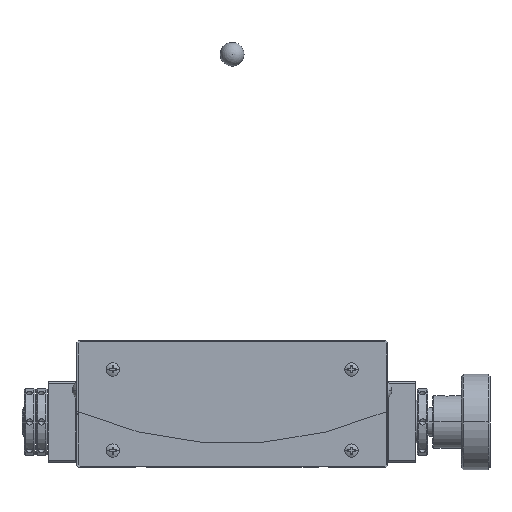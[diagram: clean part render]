
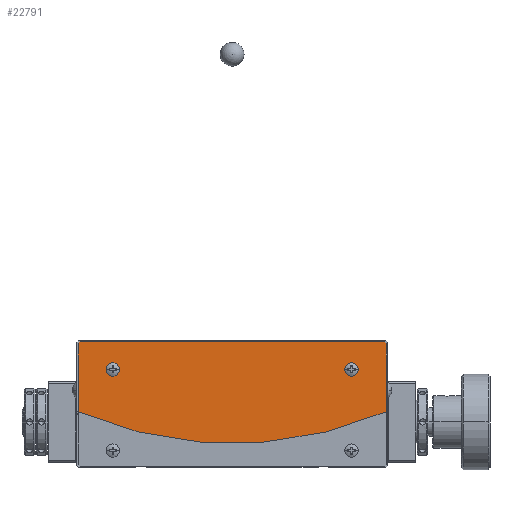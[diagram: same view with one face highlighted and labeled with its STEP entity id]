
A CAD part, front view. The second image highlights one B-rep face of the part: STEP entity #22791.
In plain terms, the highlighted planar face has unit normal (0, -1, 0).
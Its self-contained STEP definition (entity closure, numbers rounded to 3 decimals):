
#16808 = CARTESIAN_POINT ( 'NONE',  ( 64.5, -67., -1.3 ) ) ;
#17547 = VERTEX_POINT ( 'NONE', #48779 ) ;
#17549 = EDGE_CURVE ( 'NONE', #17550, #17547, #48778, .T. ) ;
#17550 = VERTEX_POINT ( 'NONE', #48773 ) ;
#22579 = EDGE_CURVE ( 'NONE', #28307, #28344, #39754, .T. ) ;
#22752 = EDGE_CURVE ( 'NONE', #28412, #28416, #40042, .T. ) ;
#22775 = VERTEX_POINT ( 'NONE', #40067 ) ;
#22776 = ORIENTED_EDGE ( 'NONE', *, *, #22777, .T. ) ;
#22777 = EDGE_CURVE ( 'NONE', #22775, #22778, #40066, .T. ) ;
#22778 = VERTEX_POINT ( 'NONE', #40128 ) ;
#22779 = ORIENTED_EDGE ( 'NONE', *, *, #22780, .T. ) ;
#22780 = EDGE_CURVE ( 'NONE', #22778, #22781, #40127, .T. ) ;
#22781 = VERTEX_POINT ( 'NONE', #40123 ) ;
#22782 = ORIENTED_EDGE ( 'NONE', *, *, #22783, .T. ) ;
#22783 = EDGE_CURVE ( 'NONE', #22781, #17550, #40122, .T. ) ;
#22784 = ORIENTED_EDGE ( 'NONE', *, *, #17549, .T. ) ;
#22785 = ORIENTED_EDGE ( 'NONE', *, *, #22786, .T. ) ;
#22786 = EDGE_CURVE ( 'NONE', #17547, #53060, #40118, .T. ) ;
#22791 = ADVANCED_FACE ( 'NONE', ( #40114, #40113, #40112 ), #40111, .T. ) ;
#22792 = EDGE_LOOP ( 'NONE', ( #22793, #22794 ) ) ;
#22793 = ORIENTED_EDGE ( 'NONE', *, *, #28305, .F. ) ;
#22794 = ORIENTED_EDGE ( 'NONE', *, *, #22579, .F. ) ;
#22795 = EDGE_LOOP ( 'NONE', ( #22797, #22798 ) ) ;
#22797 = ORIENTED_EDGE ( 'NONE', *, *, #28414, .F. ) ;
#22798 = ORIENTED_EDGE ( 'NONE', *, *, #22752, .F. ) ;
#22799 = EDGE_LOOP ( 'NONE', ( #22800, #22776, #22779, #22782, #22784, #22785 ) ) ;
#22800 = ORIENTED_EDGE ( 'NONE', *, *, #22801, .T. ) ;
#22801 = EDGE_CURVE ( 'NONE', #53060, #22775, #40109, .T. ) ;
#28305 = EDGE_CURVE ( 'NONE', #28344, #28307, #60728, .T. ) ;
#28307 = VERTEX_POINT ( 'NONE', #60714 ) ;
#28344 = VERTEX_POINT ( 'NONE', #60823 ) ;
#28412 = VERTEX_POINT ( 'NONE', #60930 ) ;
#28414 = EDGE_CURVE ( 'NONE', #28416, #28412, #60924, .T. ) ;
#28416 = VERTEX_POINT ( 'NONE', #60919 ) ;
#39754 = CIRCLE ( 'NONE', #39812, 2.8 ) ;
#39809 = DIRECTION ( 'NONE',  ( 0., 0., -1. ) ) ;
#39810 = DIRECTION ( 'NONE',  ( 0., -1., 0. ) ) ;
#39811 = CARTESIAN_POINT ( 'NONE',  ( 50., -67., -12. ) ) ;
#39812 = AXIS2_PLACEMENT_3D ( 'NONE', #39811, #39810, #39809 ) ;
#40035 = DIRECTION ( 'NONE',  ( 0., 0., -1. ) ) ;
#40036 = DIRECTION ( 'NONE',  ( 0., -1., 0. ) ) ;
#40037 = CARTESIAN_POINT ( 'NONE',  ( -50., -67., -12. ) ) ;
#40038 = AXIS2_PLACEMENT_3D ( 'NONE', #40037, #40036, #40035 ) ;
#40042 = CIRCLE ( 'NONE', #40038, 2.8 ) ;
#40064 = VECTOR ( 'NONE', #40129, 1000. ) ;
#40065 = CARTESIAN_POINT ( 'NONE',  ( 63.7, -67., -0.5 ) ) ;
#40066 = LINE ( 'NONE', #40065, #40064 ) ;
#40067 = CARTESIAN_POINT ( 'NONE',  ( 63.7, -67., -0.5 ) ) ;
#40103 = DIRECTION ( 'NONE',  ( -0.707, 0., 0.707 ) ) ;
#40104 = VECTOR ( 'NONE', #40103, 1000. ) ;
#40105 = CARTESIAN_POINT ( 'NONE',  ( 64.5, -67., -1.3 ) ) ;
#40106 = DIRECTION ( 'NONE',  ( 1., 0., 0. ) ) ;
#40107 = DIRECTION ( 'NONE',  ( 0., -1., 0. ) ) ;
#40108 = CARTESIAN_POINT ( 'NONE',  ( 0., -67., 120. ) ) ;
#40109 = LINE ( 'NONE', #40105, #40104 ) ;
#40110 = AXIS2_PLACEMENT_3D ( 'NONE', #40108, #40107, #40106 ) ;
#40111 = PLANE ( 'NONE',  #40110 ) ;
#40112 = FACE_OUTER_BOUND ( 'NONE', #22799, .T. ) ;
#40113 = FACE_BOUND ( 'NONE', #22795, .T. ) ;
#40114 = FACE_BOUND ( 'NONE', #22792, .T. ) ;
#40115 = DIRECTION ( 'NONE',  ( 0., 0., 1. ) ) ;
#40116 = VECTOR ( 'NONE', #40115, 1000. ) ;
#40117 = CARTESIAN_POINT ( 'NONE',  ( 64.5, -67., -29.696 ) ) ;
#40118 = LINE ( 'NONE', #40117, #40116 ) ;
#40119 = DIRECTION ( 'NONE',  ( 0., 0., -1. ) ) ;
#40120 = VECTOR ( 'NONE', #40119, 1000. ) ;
#40121 = CARTESIAN_POINT ( 'NONE',  ( -64.5, -67., -1.3 ) ) ;
#40122 = LINE ( 'NONE', #40121, #40120 ) ;
#40123 = CARTESIAN_POINT ( 'NONE',  ( -64.5, -67., -1.3 ) ) ;
#40124 = DIRECTION ( 'NONE',  ( -0.707, 0., -0.707 ) ) ;
#40125 = VECTOR ( 'NONE', #40124, 1000. ) ;
#40126 = CARTESIAN_POINT ( 'NONE',  ( -63.7, -67., -0.5 ) ) ;
#40127 = LINE ( 'NONE', #40126, #40125 ) ;
#40128 = CARTESIAN_POINT ( 'NONE',  ( -63.7, -67., -0.5 ) ) ;
#40129 = DIRECTION ( 'NONE',  ( -1., 0., 0. ) ) ;
#48773 = CARTESIAN_POINT ( 'NONE',  ( -64.5, -67., -29.696 ) ) ;
#48774 = DIRECTION ( 'NONE',  ( 1., 0., 0. ) ) ;
#48775 = DIRECTION ( 'NONE',  ( 0., -1., 0. ) ) ;
#48776 = CARTESIAN_POINT ( 'NONE',  ( 0., -67., 120. ) ) ;
#48777 = AXIS2_PLACEMENT_3D ( 'NONE', #48776, #48775, #48774 ) ;
#48778 = CIRCLE ( 'NONE', #48777, 163. ) ;
#48779 = CARTESIAN_POINT ( 'NONE',  ( 64.5, -67., -29.696 ) ) ;
#53060 = VERTEX_POINT ( 'NONE', #16808 ) ;
#60714 = CARTESIAN_POINT ( 'NONE',  ( 47.2, -67., -12. ) ) ;
#60724 = DIRECTION ( 'NONE',  ( 0., 0., -1. ) ) ;
#60725 = DIRECTION ( 'NONE',  ( 0., -1., 0. ) ) ;
#60726 = CARTESIAN_POINT ( 'NONE',  ( 50., -67., -12. ) ) ;
#60727 = AXIS2_PLACEMENT_3D ( 'NONE', #60726, #60725, #60724 ) ;
#60728 = CIRCLE ( 'NONE', #60727, 2.8 ) ;
#60823 = CARTESIAN_POINT ( 'NONE',  ( 52.8, -67., -12. ) ) ;
#60919 = CARTESIAN_POINT ( 'NONE',  ( -47.2, -67., -12. ) ) ;
#60920 = DIRECTION ( 'NONE',  ( 0., 0., -1. ) ) ;
#60921 = DIRECTION ( 'NONE',  ( 0., -1., 0. ) ) ;
#60922 = CARTESIAN_POINT ( 'NONE',  ( -50., -67., -12. ) ) ;
#60923 = AXIS2_PLACEMENT_3D ( 'NONE', #60922, #60921, #60920 ) ;
#60924 = CIRCLE ( 'NONE', #60923, 2.8 ) ;
#60930 = CARTESIAN_POINT ( 'NONE',  ( -52.8, -67., -12. ) ) ;
